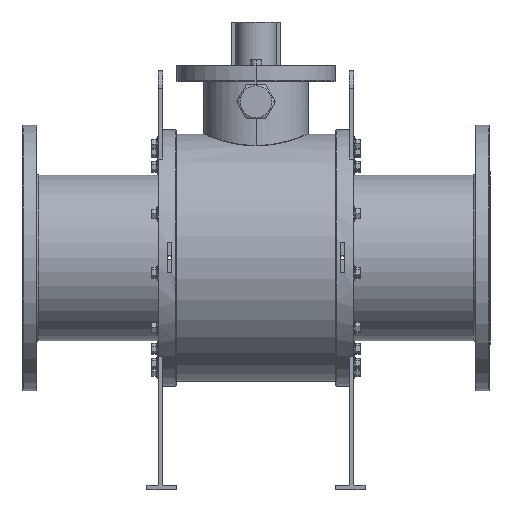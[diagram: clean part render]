
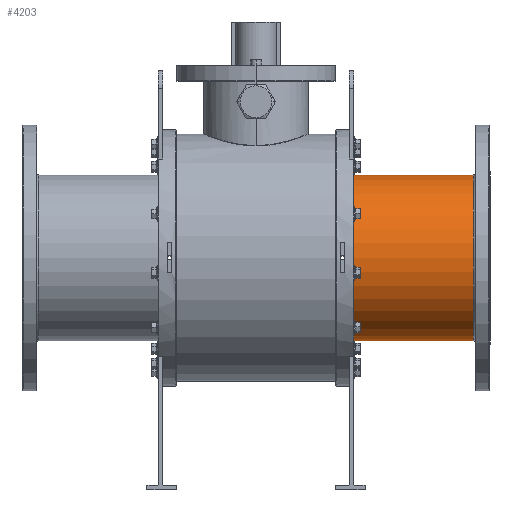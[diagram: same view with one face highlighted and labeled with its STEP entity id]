
A CAD part, top view. The second image highlights one B-rep face of the part: STEP entity #4203.
In plain terms, the highlighted cylindrical face has radius 182 mm (diameter 364 mm), a partial arc.
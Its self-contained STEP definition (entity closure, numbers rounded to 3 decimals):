
#12 = VERTEX_POINT ( 'NONE', #1684 ) ;
#690 = DIRECTION ( 'NONE',  ( -1., 0., 0. ) ) ;
#892 = CARTESIAN_POINT ( 'NONE',  ( 477.5, 182., 0. ) ) ;
#1349 = VERTEX_POINT ( 'NONE', #892 ) ;
#1572 = DIRECTION ( 'NONE',  ( -1., 0., 0. ) ) ;
#1621 = LINE ( 'NONE', #9400, #6849 ) ;
#1684 = CARTESIAN_POINT ( 'NONE',  ( 477.5, -182., 0. ) ) ;
#1840 = FACE_OUTER_BOUND ( 'NONE', #11643, .T. ) ;
#2342 = CARTESIAN_POINT ( 'NONE',  ( 215., -182., 0. ) ) ;
#2493 = DIRECTION ( 'NONE',  ( -1., 0., 0. ) ) ;
#2539 = EDGE_CURVE ( 'NONE', #4913, #10642, #9276, .T. ) ;
#2572 = CIRCLE ( 'NONE', #9807, 182. ) ;
#2733 = DIRECTION ( 'NONE',  ( 0., -1., 0. ) ) ;
#3068 = DIRECTION ( 'NONE',  ( 1., 0., 0. ) ) ;
#3322 = ORIENTED_EDGE ( 'NONE', *, *, #10985, .T. ) ;
#3400 = ORIENTED_EDGE ( 'NONE', *, *, #2539, .T. ) ;
#3940 = DIRECTION ( 'NONE',  ( -1., 0., 0. ) ) ;
#4201 = EDGE_CURVE ( 'NONE', #12, #10642, #1621, .T. ) ;
#4203 = ADVANCED_FACE ( 'NONE', ( #1840 ), #12439, .T. ) ;
#4913 = VERTEX_POINT ( 'NONE', #6888 ) ;
#4940 = VECTOR ( 'NONE', #1572, 1000. ) ;
#4998 = CARTESIAN_POINT ( 'NONE',  ( -514.5, 0., 0. ) ) ;
#5643 = ORIENTED_EDGE ( 'NONE', *, *, #7746, .T. ) ;
#5648 = AXIS2_PLACEMENT_3D ( 'NONE', #6322, #3068, #7459 ) ;
#6322 = CARTESIAN_POINT ( 'NONE',  ( 215., 0., 0. ) ) ;
#6607 = CARTESIAN_POINT ( 'NONE',  ( 477.5, 0., 0. ) ) ;
#6849 = VECTOR ( 'NONE', #3940, 1000. ) ;
#6888 = CARTESIAN_POINT ( 'NONE',  ( 215., 182., 0. ) ) ;
#6927 = ORIENTED_EDGE ( 'NONE', *, *, #4201, .F. ) ;
#7085 = LINE ( 'NONE', #13594, #4940 ) ;
#7459 = DIRECTION ( 'NONE',  ( 0., 0., -1. ) ) ;
#7746 = EDGE_CURVE ( 'NONE', #12, #1349, #2572, .T. ) ;
#7983 = AXIS2_PLACEMENT_3D ( 'NONE', #4998, #690, #2733 ) ;
#9276 = CIRCLE ( 'NONE', #5648, 182. ) ;
#9400 = CARTESIAN_POINT ( 'NONE',  ( -514.5, -182., 0. ) ) ;
#9807 = AXIS2_PLACEMENT_3D ( 'NONE', #6607, #2493, #11007 ) ;
#10642 = VERTEX_POINT ( 'NONE', #2342 ) ;
#10985 = EDGE_CURVE ( 'NONE', #1349, #4913, #7085, .T. ) ;
#11007 = DIRECTION ( 'NONE',  ( 0., 1., 0. ) ) ;
#11643 = EDGE_LOOP ( 'NONE', ( #5643, #3322, #3400, #6927 ) ) ;
#12439 = CYLINDRICAL_SURFACE ( 'NONE', #7983, 182. ) ;
#13594 = CARTESIAN_POINT ( 'NONE',  ( -514.5, 182., 0. ) ) ;
